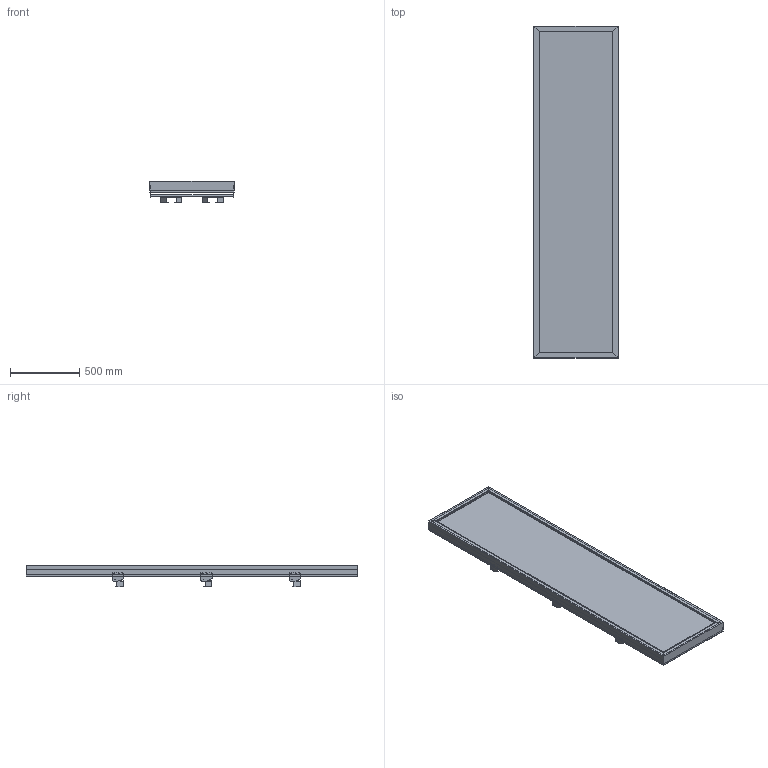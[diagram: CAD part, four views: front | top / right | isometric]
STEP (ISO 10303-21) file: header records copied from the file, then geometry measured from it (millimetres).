
FILE_DESCRIPTION (( 'STEP AP203' ), '1' );
FILE_NAME ('Padel Racket Display 610mm - Single Holder.STEP', '2026-03-30T11:29:08', ( '' ), ( '' ), 'SwSTEP 2.0', 'SolidWorks 2025', '' );
FILE_SCHEMA (( 'CONFIG_CONTROL_DESIGN' ));
Length unit declared in the file: millimetre
Products named in the file (7): Padel Racket Display 610mm - Single Holder; 368-01-GA01; 0001-31-102.STEP; 0001-31-SA23 - 610W Rear Support Bar.STEP; 0001-31-103.STEP; 0001-31-SA23 - 610W Rear Support Bar_Assem6; 0001-31-GA01 - 610W Slotted Upright
Assembly tree (14 placements, depth 4):
  Padel Racket Display 610mm - Single Holder
    0001-31-GA01 - 610W Slotted Upright
    0001-31-SA23 - 610W Rear Support Bar_Assem6  x3
      0001-31-SA23 - 610W Rear Support Bar.STEP
        0001-31-102.STEP
        0001-31-103.STEP  x2
    368-01-GA01  x6
Bounding box: 609.75 x 2400 x 158.15 mm (x, y, z)
Volume: 7069011.5 mm3; surface area: 8431598.1 mm2
Topology: 21 solids, 21 shells, 984 faces, 2808 edges, 1792 vertices
Faces by surface type: plane 756, cylinder 228
Entity records: 18613 total; most frequent: CARTESIAN_POINT 3471, ORIENTED_EDGE 3220, DIRECTION 2604, EDGE_CURVE 1610, LINE 1450, VECTOR 1450, VERTEX_POINT 1060, EDGE_LOOP 580
